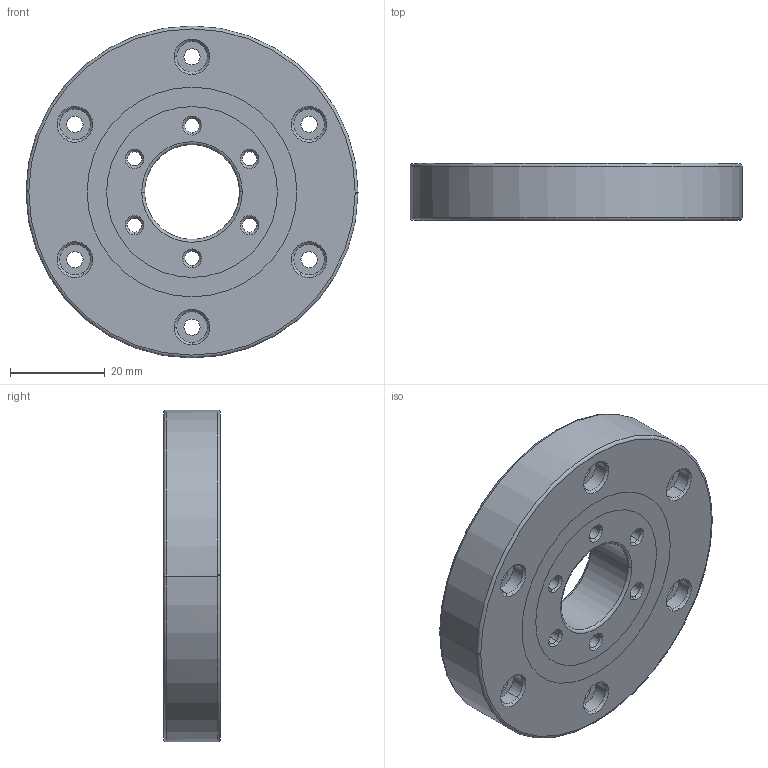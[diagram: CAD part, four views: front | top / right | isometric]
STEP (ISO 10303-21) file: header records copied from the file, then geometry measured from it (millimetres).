
FILE_DESCRIPTION(('no description'),'unknown implementation level');
FILE_NAME('CRBE02012A_66.stp',' ',('HIWIN GmbH'),('CADClick - KiM GmbH - www.kimweb.de'),'unknown preprocess','ACIS','unknown authorization');
FILE_SCHEMA(('automotive_design'));
Length unit declared in the file: millimetre
Products named in the file (4): CRBE02012A_1; CRBE02012A_2; CRBE02012A_3; CRBE02012A
Bounding box: 70 x 12 x 70 mm (x, y, z)
Volume: 35518.1 mm3; surface area: 16240.1 mm2
Topology: 4 solids, 4 shells, 178 faces, 436 edges, 272 vertices
Faces by surface type: cone 96, cylinder 52, torus 16, plane 14
Entity records: 10461 total; most frequent: DIRECTION 1088, STYLED_ITEM 890, PRESENTATION_STYLE_ASSIGNMENT 890, CARTESIAN_POINT 890, COLOUR_RGB 890, ORIENTED_EDGE 872, AXIS2_PLACEMENT_3D 470, EDGE_CURVE 436
